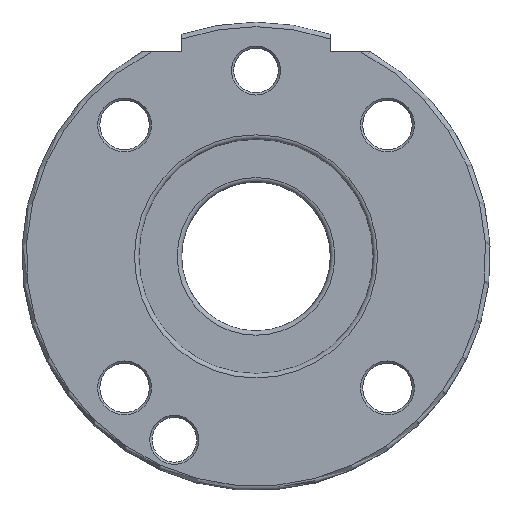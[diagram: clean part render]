
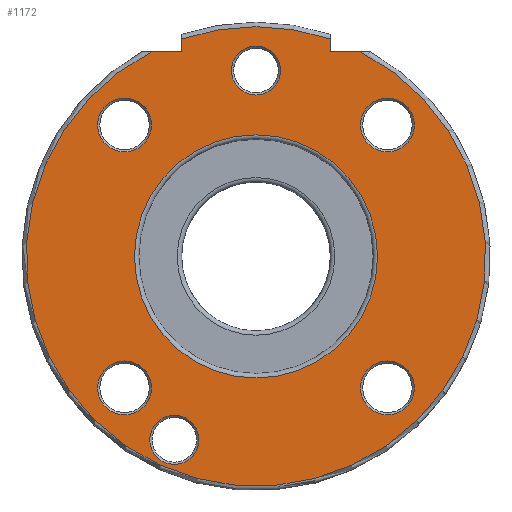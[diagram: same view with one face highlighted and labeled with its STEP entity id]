
A CAD part, front view. The second image highlights one B-rep face of the part: STEP entity #1172.
In plain terms, the highlighted planar face has unit normal (0, -1, 0).
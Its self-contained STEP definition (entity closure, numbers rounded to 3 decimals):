
#32=FACE_BOUND('',#304,.T.);
#33=FACE_BOUND('',#305,.T.);
#34=FACE_BOUND('',#306,.T.);
#35=FACE_BOUND('',#307,.T.);
#36=FACE_BOUND('',#308,.T.);
#37=FACE_BOUND('',#309,.T.);
#38=FACE_BOUND('',#310,.T.);
#58=PLANE('',#1282);
#92=LINE('',#2149,#157);
#93=LINE('',#2151,#158);
#94=LINE('',#2155,#159);
#95=LINE('',#2156,#160);
#157=VECTOR('',#1497,1.737);
#158=VECTOR('',#1498,4.091);
#159=VECTOR('',#1501,4.091);
#160=VECTOR('',#1502,1.737);
#236=FACE_OUTER_BOUND('',#303,.T.);
#303=EDGE_LOOP('',(#882,#883,#884,#885,#886,#887));
#304=EDGE_LOOP('',(#888));
#305=EDGE_LOOP('',(#889));
#306=EDGE_LOOP('',(#890));
#307=EDGE_LOOP('',(#891,#892));
#308=EDGE_LOOP('',(#893));
#309=EDGE_LOOP('',(#894));
#310=EDGE_LOOP('',(#895));
#393=CIRCLE('',#1276,16.35);
#398=CIRCLE('',#1281,16.35);
#399=CIRCLE('',#1283,30.9);
#400=CIRCLE('',#1284,30.9);
#401=CIRCLE('',#1285,3.624);
#402=CIRCLE('',#1286,3.624);
#403=CIRCLE('',#1287,3.3);
#404=CIRCLE('',#1288,3.3);
#405=CIRCLE('',#1289,3.624);
#406=CIRCLE('',#1290,3.624);
#529=VERTEX_POINT('',#2133);
#530=VERTEX_POINT('',#2134);
#534=VERTEX_POINT('',#2145);
#535=VERTEX_POINT('',#2146);
#536=VERTEX_POINT('',#2148);
#537=VERTEX_POINT('',#2150);
#538=VERTEX_POINT('',#2152);
#539=VERTEX_POINT('',#2154);
#540=VERTEX_POINT('',#2157);
#541=VERTEX_POINT('',#2159);
#542=VERTEX_POINT('',#2161);
#543=VERTEX_POINT('',#2163);
#544=VERTEX_POINT('',#2165);
#545=VERTEX_POINT('',#2167);
#665=EDGE_CURVE('',#529,#530,#393,.T.);
#670=EDGE_CURVE('',#530,#529,#398,.T.);
#671=EDGE_CURVE('',#534,#535,#399,.T.);
#672=EDGE_CURVE('',#534,#536,#92,.T.);
#673=EDGE_CURVE('',#536,#537,#93,.T.);
#674=EDGE_CURVE('',#538,#537,#400,.T.);
#675=EDGE_CURVE('',#538,#539,#94,.T.);
#676=EDGE_CURVE('',#539,#535,#95,.T.);
#677=EDGE_CURVE('',#540,#540,#401,.T.);
#678=EDGE_CURVE('',#541,#541,#402,.T.);
#679=EDGE_CURVE('',#542,#542,#403,.T.);
#680=EDGE_CURVE('',#543,#543,#404,.T.);
#681=EDGE_CURVE('',#544,#544,#405,.T.);
#682=EDGE_CURVE('',#545,#545,#406,.T.);
#882=ORIENTED_EDGE('',*,*,#671,.F.);
#883=ORIENTED_EDGE('',*,*,#672,.T.);
#884=ORIENTED_EDGE('',*,*,#673,.T.);
#885=ORIENTED_EDGE('',*,*,#674,.F.);
#886=ORIENTED_EDGE('',*,*,#675,.T.);
#887=ORIENTED_EDGE('',*,*,#676,.T.);
#888=ORIENTED_EDGE('',*,*,#677,.F.);
#889=ORIENTED_EDGE('',*,*,#678,.F.);
#890=ORIENTED_EDGE('',*,*,#679,.F.);
#891=ORIENTED_EDGE('',*,*,#665,.F.);
#892=ORIENTED_EDGE('',*,*,#670,.F.);
#893=ORIENTED_EDGE('',*,*,#680,.F.);
#894=ORIENTED_EDGE('',*,*,#681,.F.);
#895=ORIENTED_EDGE('',*,*,#682,.F.);
#1172=ADVANCED_FACE('',(#236,#32,#33,#34,#35,#36,#37,#38),#58,.T.);
#1276=AXIS2_PLACEMENT_3D('',#2135,#1481,#1482);
#1281=AXIS2_PLACEMENT_3D('',#2143,#1491,#1492);
#1282=AXIS2_PLACEMENT_3D('',#2144,#1493,#1494);
#1283=AXIS2_PLACEMENT_3D('',#2147,#1495,#1496);
#1284=AXIS2_PLACEMENT_3D('',#2153,#1499,#1500);
#1285=AXIS2_PLACEMENT_3D('',#2158,#1503,#1504);
#1286=AXIS2_PLACEMENT_3D('',#2160,#1505,#1506);
#1287=AXIS2_PLACEMENT_3D('',#2162,#1507,#1508);
#1288=AXIS2_PLACEMENT_3D('',#2164,#1509,#1510);
#1289=AXIS2_PLACEMENT_3D('',#2166,#1511,#1512);
#1290=AXIS2_PLACEMENT_3D('',#2168,#1513,#1514);
#1481=DIRECTION('center_axis',(0.,-1.,0.));
#1482=DIRECTION('ref_axis',(1.,0.,0.));
#1491=DIRECTION('center_axis',(0.,-1.,0.));
#1492=DIRECTION('ref_axis',(1.,0.,0.));
#1493=DIRECTION('center_axis',(0.,-1.,0.));
#1494=DIRECTION('ref_axis',(0.,0.,-1.));
#1495=DIRECTION('center_axis',(0.,1.,0.));
#1496=DIRECTION('ref_axis',(0.,0.,1.));
#1497=DIRECTION('',(0.,0.,-1.));
#1498=DIRECTION('',(-1.,0.,0.));
#1499=DIRECTION('center_axis',(0.,1.,0.));
#1500=DIRECTION('ref_axis',(0.,0.,-1.));
#1501=DIRECTION('',(-1.,0.,0.));
#1502=DIRECTION('',(0.,0.,1.));
#1503=DIRECTION('center_axis',(0.,-1.,0.));
#1504=DIRECTION('ref_axis',(1.,0.,0.));
#1505=DIRECTION('center_axis',(0.,-1.,0.));
#1506=DIRECTION('ref_axis',(1.,0.,0.));
#1507=DIRECTION('center_axis',(0.,-1.,0.));
#1508=DIRECTION('ref_axis',(1.,0.,0.));
#1509=DIRECTION('center_axis',(0.,-1.,0.));
#1510=DIRECTION('ref_axis',(-1.,0.,0.));
#1511=DIRECTION('center_axis',(0.,-1.,0.));
#1512=DIRECTION('ref_axis',(1.,0.,0.));
#1513=DIRECTION('center_axis',(0.,-1.,0.));
#1514=DIRECTION('ref_axis',(1.,0.,0.));
#2133=CARTESIAN_POINT('',(-16.35,0.,0.));
#2134=CARTESIAN_POINT('',(0.,0.,-16.35));
#2135=CARTESIAN_POINT('Origin',(0.,0.,0.));
#2143=CARTESIAN_POINT('Origin',(0.,0.,0.));
#2144=CARTESIAN_POINT('Origin',(-23.625,0.,0.));
#2145=CARTESIAN_POINT('',(-10.,0.,29.237));
#2146=CARTESIAN_POINT('',(10.,0.,29.237));
#2147=CARTESIAN_POINT('Origin',(0.,0.,0.));
#2148=CARTESIAN_POINT('',(-10.,0.,27.5));
#2149=CARTESIAN_POINT('',(-10.,0.,15.75));
#2150=CARTESIAN_POINT('',(-14.091,0.,27.5));
#2151=CARTESIAN_POINT('',(-21.813,0.,27.5));
#2152=CARTESIAN_POINT('',(14.091,0.,27.5));
#2153=CARTESIAN_POINT('Origin',(0.,0.,0.));
#2154=CARTESIAN_POINT('',(10.,0.,27.5));
#2155=CARTESIAN_POINT('',(-1.813,0.,27.5));
#2156=CARTESIAN_POINT('',(10.,0.,15.75));
#2157=CARTESIAN_POINT('',(-21.301,0.,17.678));
#2158=CARTESIAN_POINT('Origin',(-17.678,0.,
17.678));
#2159=CARTESIAN_POINT('',(14.054,0.,-17.678));
#2160=CARTESIAN_POINT('Origin',(17.678,0.,
-17.678));
#2161=CARTESIAN_POINT('',(-14.282,0.,-24.666));
#2162=CARTESIAN_POINT('Origin',(-10.982,0.,
-24.666));
#2163=CARTESIAN_POINT('',(3.3,0.,25.));
#2164=CARTESIAN_POINT('Origin',(0.,0.,
25.));
#2165=CARTESIAN_POINT('',(-21.301,0.,-17.678));
#2166=CARTESIAN_POINT('Origin',(-17.678,0.,
-17.678));
#2167=CARTESIAN_POINT('',(14.054,0.,17.678));
#2168=CARTESIAN_POINT('Origin',(17.678,0.,
17.678));
